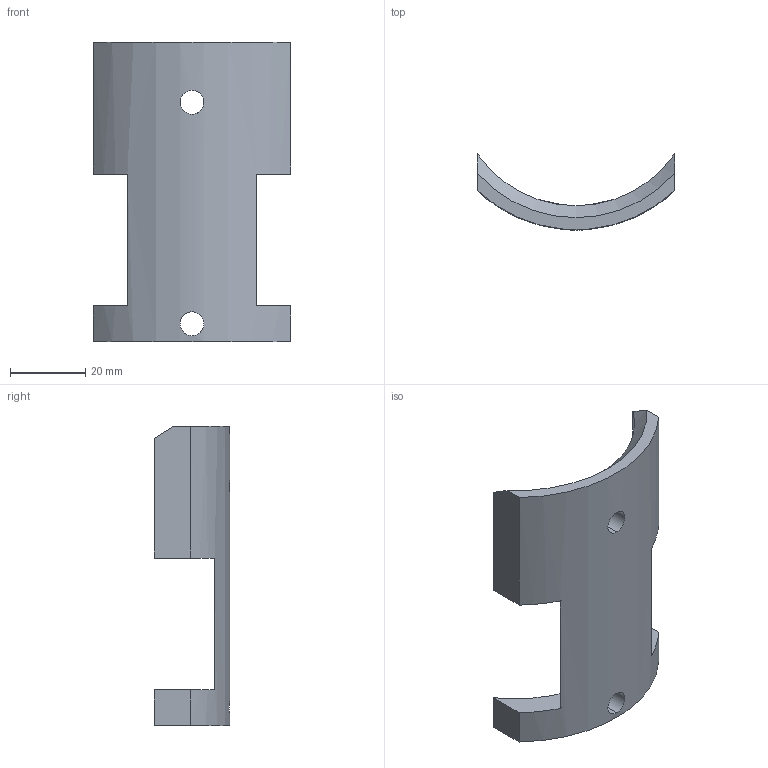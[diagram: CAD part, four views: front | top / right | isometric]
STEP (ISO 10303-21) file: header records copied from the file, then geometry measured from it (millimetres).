
FILE_DESCRIPTION (( 'STEP AP203' ), '1' );
FILE_NAME ('269-18-217.STEP', '2020-03-03T15:41:02', ( '' ), ( '' ), 'SwSTEP 2.0', 'SolidWorks 2017', '' );
FILE_SCHEMA (( 'CONFIG_CONTROL_DESIGN' ));
Length unit declared in the file: inch
Products named in the file (1): 269-18-217
Bounding box: 52.32 x 20.11 x 79.38 mm (x, y, z)
Volume: 19302.2 mm3; surface area: 9909.1 mm2
Topology: 1 solids, 1 shells, 17 faces, 45 edges, 30 vertices
Faces by surface type: plane 9, cylinder 7, cone 1
Entity records: 863 total; most frequent: CARTESIAN_POINT 359, ORIENTED_EDGE 90, DIRECTION 82, EDGE_CURVE 45, VERTEX_POINT 30, AXIS2_PLACEMENT_3D 29, VECTOR 24, LINE 24
